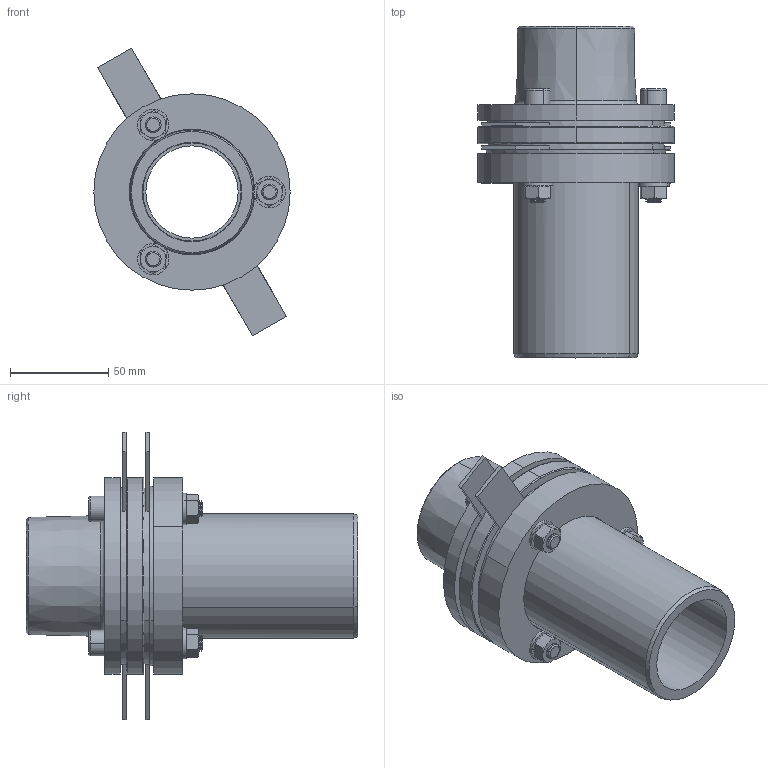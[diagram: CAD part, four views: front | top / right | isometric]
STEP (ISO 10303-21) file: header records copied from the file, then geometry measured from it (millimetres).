
FILE_DESCRIPTION (( 'STEP AP203' ), '1' );
FILE_NAME ('KP_C13-63M.step', '2011-08-08T12:02:27', ( '' ), ( '' ), 'SwSTEP 2.0', 'SolidWorks 2011', '' );
FILE_SCHEMA (( 'CONFIG_CONTROL_DESIGN' ));
Length unit declared in the file: millimetre
Products named in the file (1): KP_C13-63M
Bounding box: 100 x 169 x 146.62 mm (x, y, z)
Volume: 374932.4 mm3; surface area: 100295.6 mm2
Topology: 1 solids, 32 shells, 794 faces, 1784 edges, 1024 vertices
Faces by surface type: cylinder 345, cone 331, plane 104, torus 14
Entity records: 22699 total; most frequent: CARTESIAN_POINT 4413, DIRECTION 4226, ORIENTED_EDGE 3568, EDGE_CURVE 1784, AXIS2_PLACEMENT_3D 1733, VERTEX_POINT 1024, CIRCLE 938, EDGE_LOOP 838
